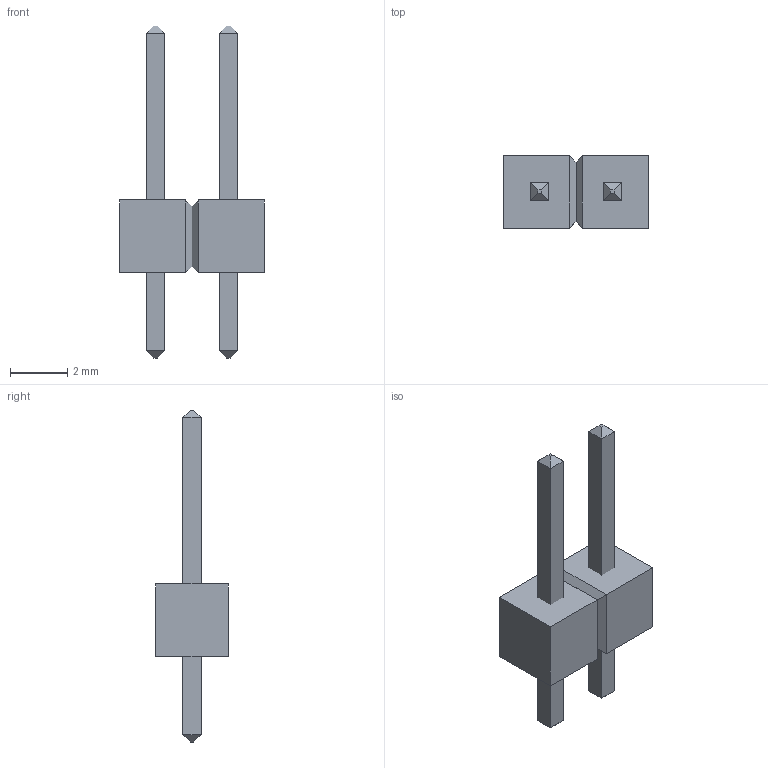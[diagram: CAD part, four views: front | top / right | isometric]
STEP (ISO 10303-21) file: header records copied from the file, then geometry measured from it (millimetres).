
FILE_DESCRIPTION(('FreeCAD Model'),'2;1');
FILE_NAME('/var/www/3D/0T/248136.7.1.stp','2026-01-02T13:27:21',( 'Author'),(''),'Open CASCADE STEP processor 6.9','FreeCAD','Unknown' );
FILE_SCHEMA(('AUTOMOTIVE_DESIGN { 1 0 10303 214 1 1 1 1 }'));
Length unit declared in the file: millimetre
Products named in the file (3): ASSEMBLY; Body; LeadsArray
Assembly tree (2 placements, depth 2):
  ASSEMBLY
    Body
    LeadsArray
Bounding box: 5.08 x 2.54 x 11.64 mm (x, y, z)
Volume: 41.6 mm3; surface area: 125.1 mm2
Topology: 3 solids, 3 shells, 46 faces, 92 edges, 52 vertices
Faces by surface type: plane 46
Entity records: 2385 total; most frequent: CARTESIAN_POINT 393, DIRECTION 358, LINE 260, VECTOR 260, ORIENTED_EDGE 184, PCURVE 184, DEFINITIONAL_REPRESENTATION 184, EDGE_CURVE 92
